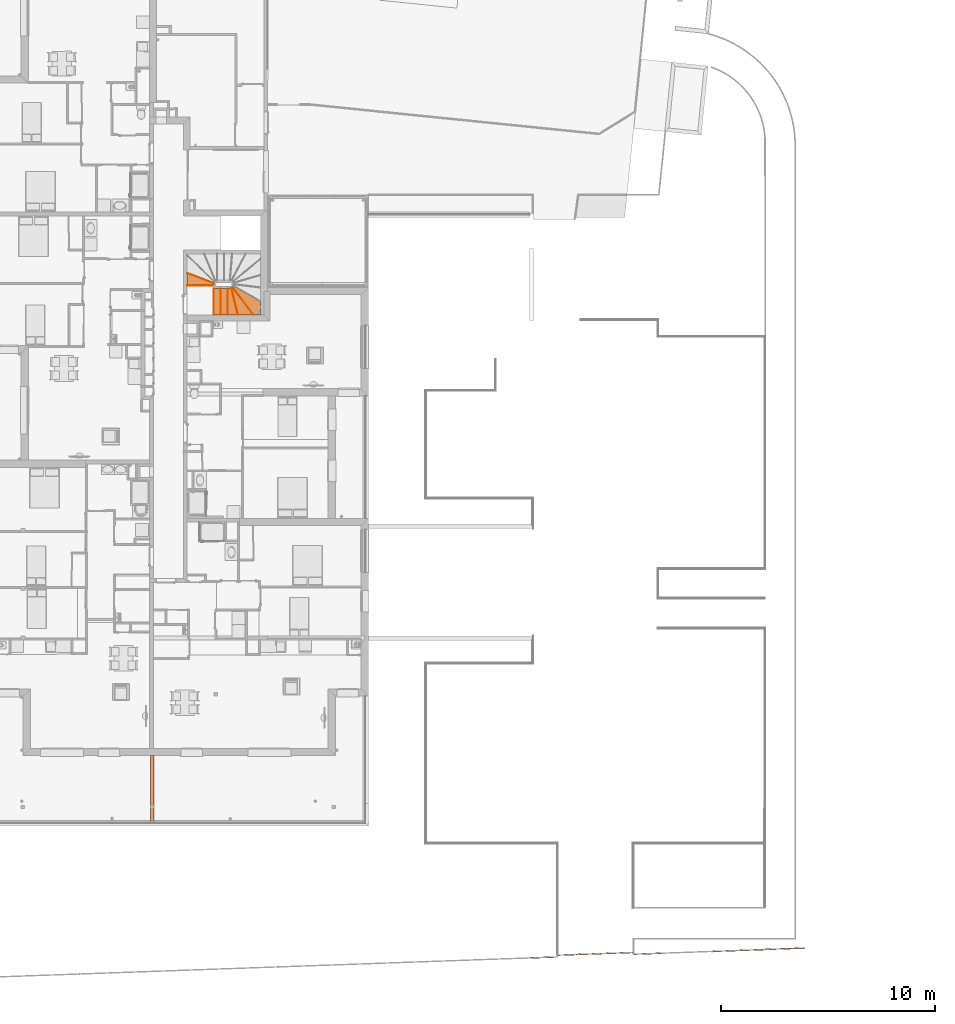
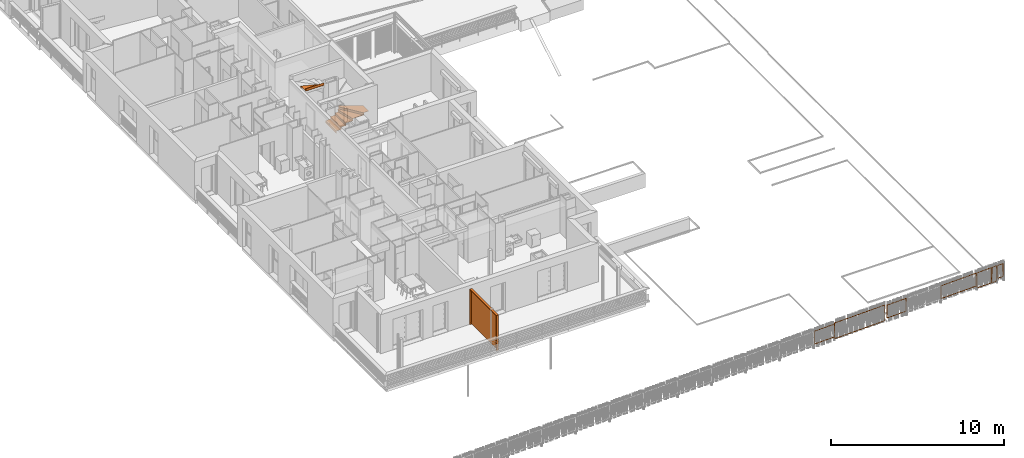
# One storey, part 167 of 171: 21 proxies, 1 element without a shape of its own.
"""IFC2X3 building model written with IfcOpenShell, lengths in millimetres."""

from ifc_helpers import new_model, entity, si_unit, converted_unit, derived_unit, money_unit, direction, frame, origin_with_axes, place, context, subcontext, project, spatial, open_shell, faceted_brep, surface_model, material, type_object, element, aggregate, save


model = new_model("IFC2X3")

# Units and contexts
model_context = context("Model", 3, precision=0.01, world=origin_with_axes(), true_north=direction((0.0, 1.0)))
body_context = subcontext(model_context, "Body", "Model", "MODEL_VIEW")
ifc_project = project(units=[si_unit("LENGTHUNIT", "METRE", prefix="MILLI"), si_unit("AREAUNIT", "SQUARE_METRE"), si_unit("VOLUMEUNIT", "CUBIC_METRE"), converted_unit("PLANEANGLEUNIT", "DEGREE", entity("IfcPlaneAngleMeasure", 0.0174532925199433), si_unit("PLANEANGLEUNIT", "RADIAN"), dimensions=[0, 0, 0, 0, 0, 0, 0]), money_unit("USD"), converted_unit("TIMEUNIT", "Year", entity("IfcTimeMeasure", 31557600.0), si_unit("TIMEUNIT", "SECOND"), dimensions=[0, 0, 1, 0, 0, 0, 0]), si_unit("MASSUNIT", "GRAM", prefix="KILO"), si_unit("THERMODYNAMICTEMPERATUREUNIT", "DEGREE_CELSIUS"), si_unit("LUMINOUSINTENSITYUNIT", "LUMEN"), si_unit("ENERGYUNIT", "JOULE", prefix="MEGA"), derived_unit("THERMALCONDUCTANCEUNIT", [(si_unit("POWERUNIT", "WATT"), 1), (si_unit("LENGTHUNIT", "METRE"), -1), (si_unit("THERMODYNAMICTEMPERATUREUNIT", "KELVIN"), -1)]), derived_unit("SPECIFICHEATCAPACITYUNIT", [(si_unit("ENERGYUNIT", "JOULE"), 1), (si_unit("MASSUNIT", "GRAM", prefix="KILO"), -1), (si_unit("THERMODYNAMICTEMPERATUREUNIT", "KELVIN"), -1)]), derived_unit("MASSDENSITYUNIT", [(si_unit("MASSUNIT", "GRAM", prefix="KILO"), 1), (si_unit("VOLUMEUNIT", "CUBIC_METRE"), -1)])], contexts=[model_context])

# Site, building, storey
site_placement = place(None, origin_with_axes())
site = spatial("IfcSite", under=ifc_project, at=site_placement, Name="Site", CompositionType="ELEMENT")
building_placement = place(site_placement, origin_with_axes())
building = spatial("IfcBuilding", under=site, at=building_placement, Name="Bâtiment", CompositionType="ELEMENT")
storey_placement = place(building_placement, frame((0.0, 0.0, 3000.0), z_axis=(0.0, 0.0, 1.0), x_axis=(1.0, 0.0, 0.0)))
storey = spatial("IfcBuildingStorey", under=building, at=storey_placement, Name="rdc", CompositionType="ELEMENT", Elevation=3000.0)

# Stair, proxies
stair_placement = place(storey_placement, frame((2227115.16403848, -636013.3434519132, 0.0), z_axis=(0.0, 0.0, 1.0), x_axis=(1.0, 0.0, 0.0)))
stair = element("IfcStair", 1, at=stair_placement, inside=storey, Name="ESC-020", ShapeType="NOTDEFINED")
ifc_material_1 = material(Name="Parpaing 2676271321")
building_element_proxy_type_1 = type_object("IfcBuildingElementProxyType", Name="IfcBuildingElementProxy", PredefinedType="NOTDEFINED")
proxy_1_placement = place(stair_placement, frame((-0.0001228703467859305, -609.9999999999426, 151.764705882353), z_axis=(0.0, 0.0, 1.0), x_axis=(-2.014264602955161e-07, -0.9999999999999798, 0.0)))
proxy_1 = element("IfcBuildingElementProxy", 2, at=proxy_1_placement, type_object=building_element_proxy_type_1, material=ifc_material_1, Name="C-MARCHE-332", context=body_context, shape_type="Brep", body=[
    faceted_brep([(610.0000000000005, 15.0, 0.0), (610.0000000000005, 24.99999999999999, 0.0), (-610.0, 24.99999999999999, 0.0), (-610.0, 15.0, 0.0), (610.0000000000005, 15.00000000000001, -151.7647058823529), (610.0000000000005, 25.0, -151.7647058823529), (-610.0, 25.0, -151.7647058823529), (-610.0, 15.00000000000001, -151.7647058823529)], [[[0, 1, 2, 3]], [[0, 4, 5, 1]], [[1, 5, 6, 2]], [[3, 2, 6, 7]], [[4, 0, 3, 7]], [[5, 4, 7, 6]]]),
])
proxy_2_placement = place(stair_placement, frame((325.100443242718, -610.0000654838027, 313.5294117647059), z_axis=(0.0, 0.0, 1.0), x_axis=(-2.014264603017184e-07, -0.9999999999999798, 0.0)))
proxy_2 = element("IfcBuildingElementProxy", 3, at=proxy_2_placement, type_object=building_element_proxy_type_1, material=ifc_material_1, Name="C-MARCHE-333", context=body_context, shape_type="Brep", body=[
    faceted_brep([(610.0000000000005, 15.0, 0.0), (610.0000000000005, 24.99999999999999, 0.0), (-610.0, 24.99999999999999, 0.0), (-610.0, 15.0, 0.0), (610.0000000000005, 15.00000000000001, -151.7647058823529), (610.0000000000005, 25.0, -151.7647058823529), (-610.0, 25.0, -151.7647058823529), (-610.0, 15.00000000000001, -151.7647058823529)], [[[0, 1, 2, 3]], [[0, 4, 5, 1]], [[1, 5, 6, 2]], [[3, 2, 6, 7]], [[4, 0, 3, 7]], [[5, 4, 7, 6]]]),
])
proxy_3_placement = place(stair_placement, frame((650.2010093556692, -610.0001309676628, 475.2941176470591), z_axis=(0.0, 0.0, 1.0), x_axis=(-2.014264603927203e-07, -0.9999999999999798, 0.0)))
proxy_3 = element("IfcBuildingElementProxy", 4, at=proxy_3_placement, type_object=building_element_proxy_type_1, material=ifc_material_1, Name="C-MARCHE-334", context=body_context, shape_type="Brep", body=[
    faceted_brep([(610.0000000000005, 15.0, 0.0), (610.0000000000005, 24.99999999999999, 0.0), (-610.0, 24.99999999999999, 0.0), (-610.0, 15.0, 0.0), (610.0000000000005, 15.00000000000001, -151.7647058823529), (610.0000000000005, 25.0, -151.7647058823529), (-610.0, 25.0, -151.7647058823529), (-610.0, 15.00000000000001, -151.7647058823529)], [[[0, 1, 2, 3]], [[0, 4, 5, 1]], [[1, 5, 6, 2]], [[3, 2, 6, 7]], [[4, 0, 3, 7]], [[5, 4, 7, 6]]]),
])
proxy_4_placement = place(stair_placement, frame((973.3676057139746, -586.1824886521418, 637.0588235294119), z_axis=(0.0, 0.0, 1.0), x_axis=(0.2407289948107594, -0.9705923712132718, 0.0)))
proxy_4 = element("IfcBuildingElementProxy", 5, at=proxy_4_placement, type_object=building_element_proxy_type_1, material=ifc_material_1, Name="C-MARCHE-335", context=body_context, shape_type="Brep", body=[
    faceted_brep([(656.741899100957, 15.00000000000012, 0.0), (659.22212879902, 25.00000000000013, 0.0), (-611.315975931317, 25.00000000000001, 0.0), (-610.5635345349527, 15.00000000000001, 0.0), (656.741899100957, 15.00000000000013, -151.7647058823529), (659.22212879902, 25.00000000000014, -151.7647058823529), (-611.315975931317, 25.00000000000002, -151.7647058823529), (-610.5635345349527, 15.00000000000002, -151.7647058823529)], [[[0, 1, 2, 3]], [[0, 4, 5, 1]], [[1, 5, 6, 2]], [[3, 2, 6, 7]], [[4, 0, 3, 7]], [[5, 4, 7, 6]]]),
])
proxy_5_placement = place(stair_placement, frame((1265.005003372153, -447.5227900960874, 798.8235294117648), z_axis=(0.0, 0.0, 1.0), x_axis=(0.6008131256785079, -0.7993895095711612, 0.0)))
proxy_5 = element("IfcBuildingElementProxy", 6, at=proxy_5_placement, type_object=building_element_proxy_type_1, material=ifc_material_1, Name="C-MARCHE-336", context=body_context, shape_type="Brep", body=[
    faceted_brep([(977.6082535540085, 15.00000000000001, 0.0), (985.1241562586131, 25.00000000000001, 0.0), (-611.315975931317, 24.9999999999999, 0.0), (-610.5635345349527, 14.9999999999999, 0.0), (977.6082535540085, 15.00000000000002, -151.7647058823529), (985.1241562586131, 25.00000000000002, -151.7647058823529), (-611.315975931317, 24.99999999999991, -151.7647058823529), (-610.5635345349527, 14.99999999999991, -151.7647058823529)], [[[0, 1, 2, 3]], [[0, 4, 5, 1]], [[1, 5, 6, 2]], [[3, 2, 6, 7]], [[4, 0, 3, 7]], [[5, 4, 7, 6]]]),
])
proxy_6_placement = place(stair_placement, frame((-556.1499030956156, 490.3074143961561, 2578.235294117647), z_axis=(0.0, 0.0, 1.0), x_axis=(-0.9335114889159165, 0.3585474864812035, 0.0)))
proxy_6 = element("IfcBuildingElementProxy", 7, at=proxy_6_placement, type_object=building_element_proxy_type_1, material=ifc_material_1, Name="C-MARCHE-347", context=body_context, shape_type="Brep", body=[
    faceted_brep([(706.5081019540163, 15.00000000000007, 0.0), (702.6442387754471, 25.00000000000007, 0.0), (-611.3159759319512, 25.00000000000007, 0.0), (-610.563534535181, 15.00000000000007, 0.0), (706.5081019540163, 15.00000000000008, -151.764705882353), (702.6442387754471, 25.00000000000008, -151.764705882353), (-611.3159759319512, 25.00000000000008, -151.764705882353), (-610.563534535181, 15.00000000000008, -151.764705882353)], [[[0, 1, 2, 3]], [[0, 4, 5, 1]], [[1, 5, 6, 2]], [[3, 2, 6, 7]], [[4, 0, 3, 7]], [[5, 4, 7, 6]]]),
])
ifc_material_2 = material(Name="Lame d'air 275581351")
proxy_7_placement = place(stair_placement, frame((-0.0001228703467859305, -609.9999999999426, 161.7647058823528), z_axis=(0.0, 0.0, 1.0), x_axis=(-2.014264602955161e-07, -0.9999999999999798, 0.0)))
proxy_7 = element("IfcBuildingElementProxy", 8, at=proxy_7_placement, type_object=building_element_proxy_type_1, material=ifc_material_2, Name="MARCHE-332", context=body_context, shape_type="Brep", body=[
    faceted_brep([(-610.0, 0.0, -10.0), (610.0000000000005, 0.0, -10.0), (610.0000000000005, 0.0, 0.0), (-610.0, 0.0, 0.0), (-610.0, 350.1005682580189, -10.0), (610.0000000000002, 350.1005594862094, -10.0), (610.0000000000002, 350.1005594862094, 0.0), (-610.0, 350.1005682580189, 0.0)], [[[0, 1, 2, 3]], [[0, 4, 5, 1]], [[1, 5, 6, 2]], [[3, 2, 6, 7]], [[4, 0, 3, 7]], [[5, 4, 7, 6]]]),
])
proxy_8_placement = place(stair_placement, frame((325.100443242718, -610.0000654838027, 323.5294117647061), z_axis=(0.0, 0.0, 1.0), x_axis=(-2.014264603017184e-07, -0.9999999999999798, 0.0)))
proxy_8 = element("IfcBuildingElementProxy", 9, at=proxy_8_placement, type_object=building_element_proxy_type_1, material=ifc_material_2, Name="MARCHE-333", context=body_context, shape_type="Brep", body=[
    faceted_brep([(-610.0, 0.0, -10.0), (610.0000000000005, 0.0, -10.0), (610.0000000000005, 0.0, 0.0), (-610.0, 0.0, 0.0), (-610.0, 350.1005682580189, -10.0), (610.0000000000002, 350.1005594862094, -10.0), (610.0000000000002, 350.1005594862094, 0.0), (-610.0, 350.1005682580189, 0.0)], [[[0, 1, 2, 3]], [[0, 4, 5, 1]], [[1, 5, 6, 2]], [[3, 2, 6, 7]], [[4, 0, 3, 7]], [[5, 4, 7, 6]]]),
])
proxy_9_placement = place(stair_placement, frame((-609.9999402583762, 171.8189697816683, 2750.0), z_axis=(0.0, 0.0, 1.0), x_axis=(-0.9999999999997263, 7.398341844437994e-07, 0.0)))
proxy_9 = element("IfcBuildingElementProxy", 10, at=proxy_9_placement, type_object=building_element_proxy_type_1, material=ifc_material_1, Name="C-MARCHE-348", context=body_context, shape_type="Brep", body=[
    faceted_brep([(609.9999999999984, 14.99999999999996, 0.0), (609.9999999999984, 24.99999999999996, 0.0), (-609.9999999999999, 24.99999999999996, 0.0), (-609.9999999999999, 14.99999999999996, 0.0), (609.9999999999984, 14.99999999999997, -161.7647058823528), (609.9999999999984, 24.99999999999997, -161.7647058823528), (-609.9999999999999, 24.99999999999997, -161.7647058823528), (-609.9999999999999, 14.99999999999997, -161.7647058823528)], [[[0, 1, 2, 3]], [[0, 4, 5, 1]], [[1, 5, 6, 2]], [[3, 2, 6, 7]], [[4, 0, 3, 7]], [[5, 4, 7, 6]]]),
])
proxy_10_placement = place(stair_placement, frame((650.2010093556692, -610.0001309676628, 485.2941176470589), z_axis=(0.0, 0.0, 1.0), x_axis=(-2.014264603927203e-07, -0.9999999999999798, 0.0)))
proxy_10 = element("IfcBuildingElementProxy", 11, at=proxy_10_placement, type_object=building_element_proxy_type_1, material=ifc_material_2, Name="MARCHE-334", context=body_context, shape_type="Brep", body=[
    faceted_brep([(-610.0000000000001, 0.0, -10.0), (610.0, 0.0, -10.0), (610.0, 0.0, 0.0), (-610.0000000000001, 0.0, 0.0), (-610.0000000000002, 128.1965044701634, -10.0), (-613.3837442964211, 164.8225887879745, -10.0), (-623.4204307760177, 200.2088107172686, -10.0), (610.0000000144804, 506.1254089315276, -10.0), (610.0, 128.1965037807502, -10.0), (610.0, 128.1965037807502, 0.0), (610.0000000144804, 506.1254089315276, 0.0), (-623.4204307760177, 200.2088107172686, 0.0), (-613.3837442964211, 164.8225887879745, 0.0), (-610.0000000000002, 128.1965044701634, 0.0)], [[[0, 1, 2, 3]], [[0, 4, 5, 6, 7, 8, 1]], [[1, 8, 9, 2]], [[3, 2, 9, 10, 11, 12, 13]], [[4, 0, 3, 13]], [[5, 4, 13, 12]], [[6, 5, 12, 11]], [[7, 6, 11, 10]], [[8, 7, 10, 9]]]),
])
proxy_11_placement = place(stair_placement, frame((973.3676057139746, -586.1824886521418, 647.0588235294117), z_axis=(0.0, 0.0, 1.0), x_axis=(0.2407289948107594, -0.9705923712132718, 0.0)))
proxy_11 = element("IfcBuildingElementProxy", 12, at=proxy_11_placement, type_object=building_element_proxy_type_1, material=ifc_material_2, Name="MARCHE-335", context=body_context, shape_type="Brep", body=[
    faceted_brep([(-610.0, 0.0, -10.0), (653.0215545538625, 0.0, -10.0), (653.0215545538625, 0.0, 0.0), (-610.0, 0.0, 0.0), (-613.0741059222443, 34.92373452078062, -10.0), (-622.2018820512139, 68.77341787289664, -10.0), (-637.1026110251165, 100.5080304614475, -10.0), (832.6768914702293, 724.3495917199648, -10.0), (832.6768914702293, 724.3495917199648, 0.0), (-637.1026110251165, 100.5080304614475, 0.0), (-622.2018820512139, 68.77341787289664, 0.0), (-613.0741059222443, 34.92373452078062, 0.0)], [[[0, 1, 2, 3]], [[0, 4, 5, 6, 7, 1]], [[1, 7, 8, 2]], [[3, 2, 8, 9, 10, 11]], [[4, 0, 3, 11]], [[5, 4, 11, 10]], [[6, 5, 10, 9]], [[7, 6, 9, 8]]]),
])
proxy_12_placement = place(stair_placement, frame((1265.005003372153, -447.5227900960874, 808.8235294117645), z_axis=(0.0, 0.0, 1.0), x_axis=(0.6008131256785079, -0.7993895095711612, 0.0)))
proxy_12 = element("IfcBuildingElementProxy", 13, at=proxy_12_placement, type_object=building_element_proxy_type_1, material=ifc_material_2, Name="MARCHE-336", context=body_context, shape_type="Brep", body=[
    faceted_brep([(-610.0, 0.0, -10.0), (966.3343994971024, 0.0, -10.0), (966.3343994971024, 0.0, 0.0), (-610.0, 0.0, 0.0), (-613.0741059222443, 34.92373452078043, -10.0), (-622.201882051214, 68.77341787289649, -10.0), (-637.1026110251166, 100.5080304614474, -10.0), (676.2483896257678, 657.9541897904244, -10.0), (1178.253624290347, 281.9611071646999, -10.0), (1178.253624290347, 281.9611071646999, 0.0), (676.2483896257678, 657.9541897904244, 0.0), (-637.1026110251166, 100.5080304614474, 0.0), (-622.201882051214, 68.77341787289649, 0.0), (-613.0741059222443, 34.92373452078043, 0.0)], [[[0, 1, 2, 3]], [[0, 4, 5, 6, 7, 8, 1]], [[1, 8, 9, 2]], [[3, 2, 9, 10, 11, 12, 13]], [[4, 0, 3, 13]], [[5, 4, 13, 12]], [[6, 5, 12, 11]], [[7, 6, 11, 10]], [[8, 7, 10, 9]]]),
])
proxy_13_placement = place(stair_placement, frame((-556.1499030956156, 490.3074143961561, 2588.235294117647), z_axis=(0.0, 0.0, 1.0), x_axis=(-0.9335114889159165, 0.3585474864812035, 0.0)))
proxy_13 = element("IfcBuildingElementProxy", 14, at=proxy_13_placement, type_object=building_element_proxy_type_1, material=ifc_material_2, Name="MARCHE-347", context=body_context, shape_type="Brep", body=[
    faceted_brep([(-609.9999999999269, 0.0, -10.0), (712.3038967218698, 0.0, -10.0), (712.3038967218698, 0.0, 0.0), (-609.9999999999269, 0.0, 0.0), (-613.351096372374, 36.45046483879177, -10.0), (-623.292039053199, 71.6789177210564, -10.0), (-633.3657729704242, 97.90687214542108, -10.0), (-642.3294428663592, 121.2446659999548, -10.0), (496.5548972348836, 558.6717569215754, -10.0), (505.5185671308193, 535.333963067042, -10.0), (515.5923685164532, 509.1058329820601, -10.0), (515.5923685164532, 509.1058329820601, 0.0), (505.5185671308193, 535.333963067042, 0.0), (496.5548972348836, 558.6717569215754, 0.0), (-642.3294428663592, 121.2446659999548, 0.0), (-633.3657729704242, 97.90687214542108, 0.0), (-623.292039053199, 71.6789177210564, 0.0), (-613.351096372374, 36.45046483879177, 0.0)], [[[0, 1, 2, 3]], [[0, 4, 5, 6, 7, 8, 9, 10, 1]], [[1, 10, 11, 2]], [[3, 2, 11, 12, 13, 14, 15, 16, 17]], [[4, 0, 3, 17]], [[5, 4, 17, 16]], [[6, 5, 16, 15]], [[7, 6, 15, 14]], [[8, 7, 14, 13]], [[9, 8, 13, 12]], [[10, 9, 12, 11]]]),
])
aggregate(stair, [proxy_1, proxy_2, proxy_3, proxy_4, proxy_5, proxy_6, proxy_7, proxy_8, proxy_9, proxy_10, proxy_11, proxy_12, proxy_13])

# Proxies
building_element_proxy_type_2 = type_object("IfcBuildingElementProxyType", PredefinedType="NOTDEFINED")
proxy_14_placement = place(storey_placement, frame((2224337.596298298, -660918.1335052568, 0.0), z_axis=(0.0, 0.0, 1.0), x_axis=(0.0, 1.0, 0.0)))
element("IfcBuildingElementProxy", 15, at=proxy_14_placement, inside=storey, type_object=building_element_proxy_type_2, Name="Obj.-034", context=body_context, shape_type="SurfaceModel", body=[
    faceted_brep([(3099.810428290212, 0.0, 2449.999999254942), (0.0, 0.0, 2449.999999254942), (0.0, 150.0000000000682, 2449.999999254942), (3099.810428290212, 150.0000000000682, 2449.999999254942), (3099.810428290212, 0.0, 2500.0), (0.0, 0.0, 2500.0), (0.0, 150.0000000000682, 2500.0), (3099.810428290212, 150.0000000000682, 2500.0)], [[[0, 1, 2, 3]], [[1, 0, 4, 5]], [[2, 1, 5, 6]], [[3, 2, 6, 7]], [[0, 3, 7, 4]], [[5, 4, 7, 6]]]),
    faceted_brep([(50.00000074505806, 0.0, 0.0), (0.0, 0.0, 0.0), (0.0, 150.0000000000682, 0.0), (50.00000074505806, 150.0000000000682, 0.0), (50.00000074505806, 0.0, 2449.999999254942), (0.0, 0.0, 2449.999999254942), (0.0, 150.0000000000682, 2449.999999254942), (50.00000074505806, 150.0000000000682, 2449.999999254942)], [[[0, 1, 2, 3]], [[1, 0, 4, 5]], [[2, 1, 5, 6]], [[3, 2, 6, 7]], [[0, 3, 7, 4]], [[5, 4, 7, 6]]]),
    faceted_brep([(3099.810428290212, 0.0, 0.0), (3049.810427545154, 0.0, 0.0), (3049.810427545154, 150.0000000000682, 0.0), (3099.810428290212, 150.0000000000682, 0.0), (3099.810428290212, 0.0, 2449.999999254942), (3049.810427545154, 0.0, 2449.999999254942), (3049.810427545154, 150.0000000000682, 2449.999999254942), (3099.810428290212, 150.0000000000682, 2449.999999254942)], [[[0, 1, 2, 3]], [[1, 0, 4, 5]], [[2, 1, 5, 6]], [[3, 2, 6, 7]], [[0, 3, 7, 4]], [[5, 4, 7, 6]]]),
    surface_model("IfcShellBasedSurfaceModel", [(100.0000007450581, 75.00000000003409, 50.0), (2999.810427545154, 75.00000000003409, 50.0), (2999.810427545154, 75.00000000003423, 2399.999999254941), (100.0000007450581, 75.00000000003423, 2399.999999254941)], [open_shell([[[0, 1, 2, 3]]])]),
    surface_model("IfcShellBasedSurfaceModel", [(50.00000074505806, 75.00000000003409, 100.0), (120.0000007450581, 75.00000000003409, 100.0), (120.0000007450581, 75.00000000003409, 130.0), (50.00000074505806, 75.00000000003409, 130.0)], [open_shell([[[0, 1, 2, 3]]])]),
    surface_model("IfcShellBasedSurfaceModel", [(50.00000074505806, 75.00000000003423, 2329.999999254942), (120.0000007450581, 75.00000000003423, 2329.999999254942), (120.0000007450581, 75.00000000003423, 2359.999999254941), (50.00000074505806, 75.00000000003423, 2359.999999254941)], [open_shell([[[0, 1, 2, 3]]])]),
    surface_model("IfcShellBasedSurfaceModel", [(2979.810427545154, 75.00000000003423, 2329.999999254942), (3049.810427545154, 75.00000000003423, 2329.999999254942), (3049.810427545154, 75.00000000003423, 2359.999999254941), (2979.810427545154, 75.00000000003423, 2359.999999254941)], [open_shell([[[0, 1, 2, 3]]])]),
    surface_model("IfcShellBasedSurfaceModel", [(2979.810427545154, 75.00000000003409, 99.99999999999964), (3049.810427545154, 75.00000000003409, 99.99999999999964), (3049.810427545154, 75.00000000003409, 129.9999999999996), (2979.810427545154, 75.00000000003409, 129.9999999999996)], [open_shell([[[0, 1, 2, 3]]])]),
])
proxy_15_placement = place(storey_placement, frame((2248074.802136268, -667063.0606329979, -1900.0), z_axis=(0.0, 0.0, 1.0), x_axis=(-0.9993632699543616, -0.03567989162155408, 0.0)))
element("IfcBuildingElementProxy", 16, at=proxy_15_placement, inside=storey, type_object=building_element_proxy_type_2, Name="Obj.-047", context=body_context, shape_type="Brep", body=[
    faceted_brep([(0.0, 0.0, 50.00000000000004), (1329.379524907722, 0.0, 50.00000000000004), (1329.379524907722, -39.99999999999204, 50.00000000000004), (1.13686837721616e-10, -39.99999999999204, 50.00000000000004), (0.0, 0.0, 999.9999999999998), (1329.379524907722, 0.0, 999.9999999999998), (40.00000000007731, 0.0, 90.00000000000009), (1289.379524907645, 0.0, 90.00000000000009), (1289.379524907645, 0.0, 959.9999999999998), (40.00000000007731, 0.0, 959.9999999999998), (1329.379524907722, -39.99999999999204, 999.9999999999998), (1.13686837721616e-10, -39.99999999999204, 999.9999999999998), (40.00000000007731, -39.99999999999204, 90.00000000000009), (40.00000000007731, -39.99999999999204, 959.9999999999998), (1289.379524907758, -39.99999999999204, 959.9999999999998), (1289.379524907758, -39.99999999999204, 90.00000000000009)], [[[0, 1, 2, 3]], [[0, 4, 5, 1], [6, 7, 8, 9]], [[1, 5, 10, 2]], [[3, 2, 10, 11], [12, 13, 14, 15]], [[4, 0, 3, 11]], [[5, 4, 11, 10]], [[7, 6, 12, 15]], [[8, 7, 15, 14]], [[9, 8, 14, 13]], [[6, 9, 13, 12]]]),
])
proxy_16_placement = place(storey_placement, frame((2243186.219655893, -667237.5958578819, -1900.0), z_axis=(0.0, 0.0, 1.0), x_axis=(-0.9993632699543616, -0.03567989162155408, 0.0)))
element("IfcBuildingElementProxy", 17, at=proxy_16_placement, inside=storey, type_object=building_element_proxy_type_2, Name="Obj.-047", context=body_context, shape_type="Brep", body=[
    faceted_brep([(0.0, 0.0, 50.00000000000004), (1410.337773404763, 0.0, 50.00000000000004), (1410.337773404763, -40.00000000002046, 50.00000000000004), (0.0, -40.00000000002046, 50.00000000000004), (0.0, 0.0, 999.9999999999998), (1410.337773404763, 0.0, 999.9999999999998), (39.99999999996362, 0.0, 90.00000000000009), (1370.337773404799, 0.0, 90.00000000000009), (1370.337773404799, 0.0, 959.9999999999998), (39.99999999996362, 0.0, 959.9999999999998), (1410.337773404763, -40.00000000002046, 999.9999999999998), (0.0, -40.00000000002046, 999.9999999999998), (39.99999999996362, -40.00000000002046, 90.00000000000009), (39.99999999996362, -40.00000000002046, 959.9999999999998), (1370.337773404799, -40.00000000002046, 959.9999999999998), (1370.337773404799, -40.00000000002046, 90.00000000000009)], [[[0, 1, 2, 3]], [[0, 4, 5, 1], [6, 7, 8, 9]], [[1, 5, 10, 2]], [[3, 2, 10, 11], [12, 13, 14, 15]], [[4, 0, 3, 11]], [[5, 4, 11, 10]], [[7, 6, 12, 15]], [[8, 7, 15, 14]], [[9, 8, 14, 13]], [[6, 9, 13, 12]]]),
])
proxy_17_placement = place(storey_placement, frame((2254701.039370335, -666826.486572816, -1900.0), z_axis=(0.0, 0.0, 1.0), x_axis=(-0.9993632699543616, -0.03567989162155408, 0.0)))
element("IfcBuildingElementProxy", 18, at=proxy_17_placement, inside=storey, type_object=building_element_proxy_type_2, Name="Obj.-047", context=body_context, shape_type="Brep", body=[
    faceted_brep([(0.0, 0.0, 50.00000000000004), (415.0536821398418, 0.0, 50.00000000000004), (415.0536821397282, -39.99999999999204, 50.00000000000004), (-1.13686837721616e-10, -39.99999999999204, 50.00000000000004), (0.0, 0.0, 999.9999999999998), (415.0536821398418, 0.0, 999.9999999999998), (39.99999999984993, 0.0, 90.00000000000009), (375.0536821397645, 0.0, 90.00000000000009), (375.0536821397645, 0.0, 959.9999999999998), (39.99999999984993, 0.0, 959.9999999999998), (415.0536821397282, -39.99999999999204, 999.9999999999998), (-1.13686837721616e-10, -39.99999999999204, 999.9999999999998), (39.99999999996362, -39.99999999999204, 90.00000000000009), (39.99999999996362, -39.99999999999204, 959.9999999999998), (375.0536821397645, -39.99999999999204, 959.9999999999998), (375.0536821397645, -39.99999999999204, 90.00000000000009)], [[[0, 1, 2, 3]], [[0, 4, 5, 1], [6, 7, 8, 9]], [[1, 5, 10, 2]], [[3, 2, 10, 11], [12, 13, 14, 15]], [[4, 0, 3, 11]], [[5, 4, 11, 10]], [[7, 6, 12, 15]], [[8, 7, 15, 14]], [[9, 8, 14, 13]], [[6, 9, 13, 12]]]),
])
proxy_18_placement = place(storey_placement, frame((2252868.148039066, -666891.9256038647, -1900.0), z_axis=(0.0, 0.0, 1.0), x_axis=(-0.9993632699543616, -0.03567989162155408, 0.0)))
element("IfcBuildingElementProxy", 19, at=proxy_18_placement, inside=storey, type_object=building_element_proxy_type_2, Name="Obj.-047", context=body_context, shape_type="Brep", body=[
    faceted_brep([(0.0, 0.0, 50.00000000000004), (2441.931935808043, 0.0, 50.00000000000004), (2441.931935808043, -39.99999999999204, 50.00000000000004), (0.0, -39.99999999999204, 50.00000000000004), (0.0, 0.0, 999.9999999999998), (2441.931935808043, 0.0, 999.9999999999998), (40.00000000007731, 0.0, 90.00000000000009), (2401.931935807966, 0.0, 90.00000000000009), (2401.931935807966, 0.0, 959.9999999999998), (40.00000000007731, 0.0, 959.9999999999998), (2441.931935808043, -39.99999999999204, 999.9999999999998), (0.0, -39.99999999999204, 999.9999999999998), (40.00000000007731, -39.99999999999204, 90.00000000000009), (40.00000000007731, -39.99999999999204, 959.9999999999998), (2401.931935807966, -39.99999999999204, 959.9999999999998), (2401.931935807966, -39.99999999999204, 90.00000000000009)], [[[0, 1, 2, 3]], [[0, 4, 5, 1], [6, 7, 8, 9]], [[1, 5, 10, 2]], [[3, 2, 10, 11], [12, 13, 14, 15]], [[4, 0, 3, 11]], [[5, 4, 11, 10]], [[7, 6, 12, 15]], [[8, 7, 15, 14]], [[9, 8, 14, 13]], [[6, 9, 13, 12]]]),
])
proxy_19_placement = place(storey_placement, frame((2246671.813538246, -667030.6426425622, -2100.0), z_axis=(0.0, 0.0, 1.0), x_axis=(-0.9993632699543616, -0.03567989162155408, 0.0)))
element("IfcBuildingElementProxy", 20, at=proxy_19_placement, inside=storey, type_object=building_element_proxy_type_2, Name="Obj.-047", context=body_context, shape_type="Brep", body=[
    faceted_brep([(0.0, 0.0, 50.00000000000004), (3467.36372970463, 0.0, 50.00000000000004), (3467.36372970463, -39.99999999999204, 50.00000000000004), (0.0, -39.99999999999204, 50.00000000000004), (0.0, 0.0, 1200.0), (3467.36372970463, 0.0, 1200.0), (40.00000000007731, 0.0, 89.99999999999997), (3427.36372970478, 0.0, 89.99999999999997), (3427.36372970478, 0.0, 1160.0), (40.00000000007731, 0.0, 1160.0), (3467.36372970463, -39.99999999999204, 1200.0), (0.0, -39.99999999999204, 1200.0), (40.00000000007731, -39.99999999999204, 89.99999999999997), (40.00000000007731, -39.99999999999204, 1160.0), (3427.36372970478, -39.99999999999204, 1160.0), (3427.36372970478, -39.99999999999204, 89.99999999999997)], [[[0, 1, 2, 3]], [[0, 4, 5, 1], [6, 7, 8, 9]], [[1, 5, 10, 2]], [[3, 2, 10, 11], [12, 13, 14, 15]], [[4, 0, 3, 11]], [[5, 4, 11, 10]], [[7, 6, 12, 15]], [[8, 7, 15, 14]], [[9, 8, 14, 13]], [[6, 9, 13, 12]]]),
])
proxy_20_placement = place(storey_placement, frame((2254256.177024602, -666839.7880041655, -2066.162171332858), z_axis=(0.0, 0.0, 1.0), x_axis=(-0.9993632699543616, -0.03567989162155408, 0.0)))
element("IfcBuildingElementProxy", 21, at=proxy_20_placement, inside=storey, type_object=building_element_proxy_type_2, Name="Obj.-047", context=body_context, shape_type="Brep", body=[
    faceted_brep([(0.0, 0.0, 50.00000000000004), (359.0054496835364, 0.0, 50.00000000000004), (359.0054496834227, -39.99999999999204, 50.00000000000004), (0.0, -39.99999999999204, 50.00000000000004), (0.0, 0.0, 1166.162171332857), (359.0054496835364, 0.0, 1166.162171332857), (40.00000000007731, 0.0, 90.00000000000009), (319.0054496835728, 0.0, 90.00000000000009), (319.0054496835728, 0.0, 1126.162171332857), (40.00000000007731, 0.0, 1126.162171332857), (359.0054496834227, -39.99999999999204, 1166.162171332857), (0.0, -39.99999999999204, 1166.162171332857), (40.00000000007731, -39.99999999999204, 90.00000000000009), (40.00000000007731, -39.99999999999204, 1126.162171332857), (319.0054496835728, -39.99999999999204, 1126.162171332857), (319.0054496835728, -39.99999999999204, 90.00000000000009)], [[[0, 1, 2, 3]], [[0, 4, 5, 1], [6, 7, 8, 9]], [[1, 5, 10, 2]], [[3, 2, 10, 11], [12, 13, 14, 15]], [[4, 0, 3, 11]], [[5, 4, 11, 10]], [[7, 6, 12, 15]], [[8, 7, 15, 14]], [[9, 8, 14, 13]], [[6, 9, 13, 12]]]),
])
proxy_21_placement = place(storey_placement, frame((2253897.400164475, -666852.5972797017, -2066.162171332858), z_axis=(0.0, 0.0, 1.0), x_axis=(-0.9993632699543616, -0.03567989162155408, 0.0)))
element("IfcBuildingElementProxy", 22, at=proxy_21_placement, inside=storey, type_object=building_element_proxy_type_2, Name="Obj.-047", context=body_context, shape_type="Brep", body=[
    faceted_brep([(0.0, 0.0, 50.00000000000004), (1000.0, 0.0, 50.00000000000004), (1000.0, -39.99999999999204, 50.00000000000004), (-1.13686837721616e-10, -39.99999999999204, 50.00000000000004), (0.0, 0.0, 1166.162171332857), (1000.0, 0.0, 1166.162171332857), (39.99999999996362, 0.0, 90.00000000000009), (960.0000000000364, 0.0, 90.00000000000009), (960.0000000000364, 0.0, 1126.162171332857), (39.99999999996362, 0.0, 1126.162171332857), (1000.0, -39.99999999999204, 1166.162171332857), (-1.13686837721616e-10, -39.99999999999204, 1166.162171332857), (39.99999999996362, -39.99999999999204, 90.00000000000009), (39.99999999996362, -39.99999999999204, 1126.162171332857), (959.9999999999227, -39.99999999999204, 1126.162171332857), (959.9999999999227, -39.99999999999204, 90.00000000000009)], [[[0, 1, 2, 3]], [[0, 4, 5, 1], [6, 7, 8, 9]], [[1, 5, 10, 2]], [[3, 2, 10, 11], [12, 13, 14, 15]], [[4, 0, 3, 11]], [[5, 4, 11, 10]], [[7, 6, 12, 15]], [[8, 7, 15, 14]], [[9, 8, 14, 13]], [[6, 9, 13, 12]]]),
])

save(model, "model.ifc")
